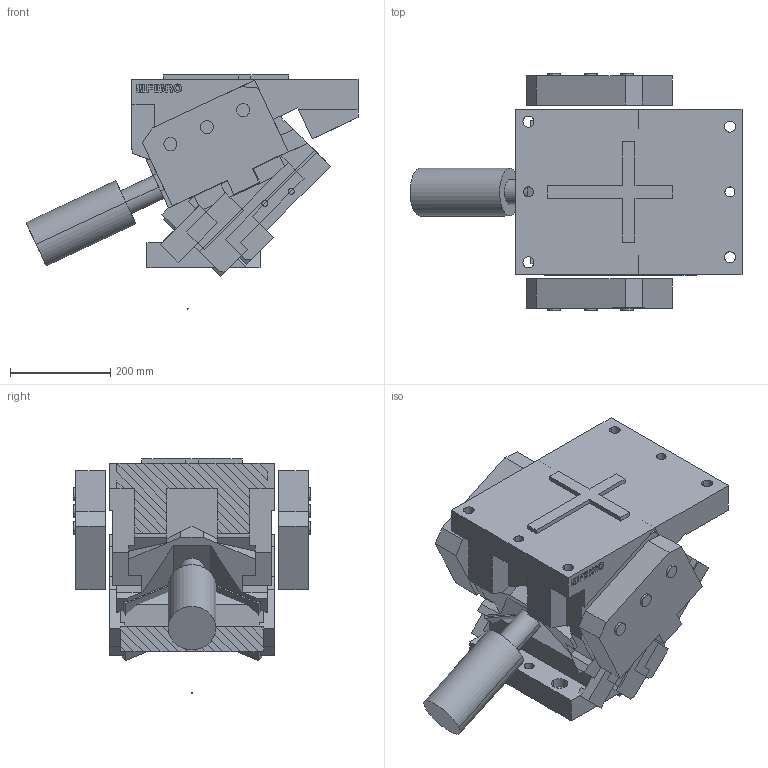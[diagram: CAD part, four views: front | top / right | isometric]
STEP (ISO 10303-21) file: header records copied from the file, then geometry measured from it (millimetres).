
FILE_DESCRIPTION(('CATIA V5 STEP','CAx-IF Rec.Pracs.--- Model Styling and Organization---1.5--- 2016-08-15','CAx-IF Rec.Pracs.---Supplemental Geometry---1.0---2011-11-01','CAx-IF Rec.Pracs.---Representation and Presentation of Product Manufacturing Information (PMI)---2.3---2014-10-13','CAx-IF Rec.Pracs.--- Composite Materials ---1.1---2010-07-15'),'2;1');
FILE_NAME('C:\Users\meyer\Desktop\step\2016.24.033.45.2000.00_k.stp','2024-06-13T06:24:10+00:00',('none'),('none'),'CATIA Version 5-6 Release 2022 SP4 HF8','CATIA V5 STEP AP214 Edition 3 v3','none');
FILE_SCHEMA(('AUTOMOTIVE_DESIGN { 1 0 10303 214 3 1 1 1 }'));
Length unit declared in the file: millimetre
Products named in the file (1): 2016.24.033.45.2000.00_k
Bounding box: 660.79 x 472 x 465.85 mm (x, y, z)
Volume: 53784893 mm3; surface area: 2310155.6 mm2
Topology: 10 solids, 10 shells, 494 faces, 1430 edges, 1084 vertices
Faces by surface type: plane 398, cylinder 94, cone 2
Entity records: 26702 total; most frequent: CARTESIAN_POINT 12575, ORIENTED_EDGE 2826, DIRECTION 1910, EDGE_CURVE 1413, VECTOR 1196, LINE 1196, VERTEX_POINT 995, EDGE_LOOP 574
